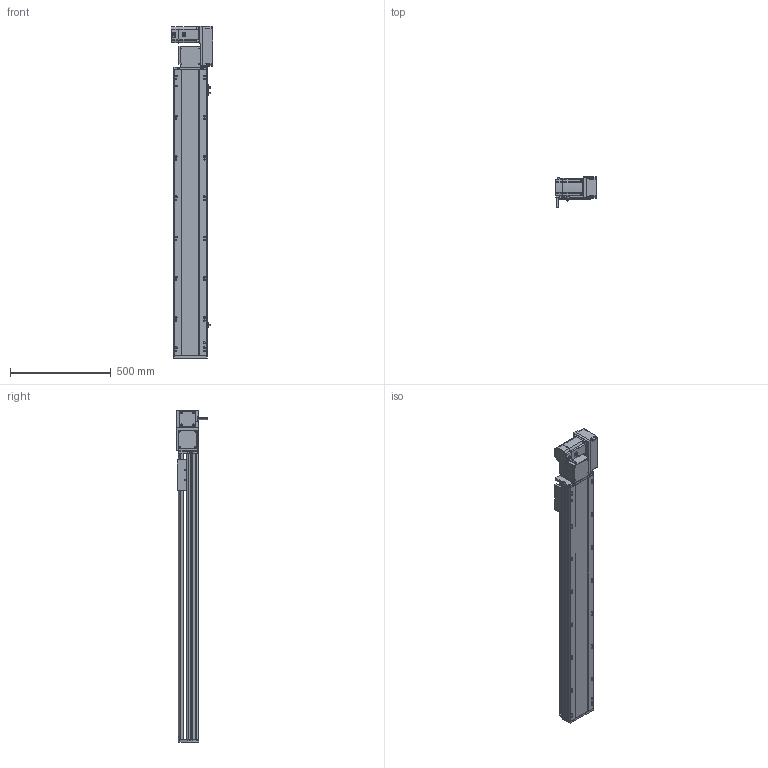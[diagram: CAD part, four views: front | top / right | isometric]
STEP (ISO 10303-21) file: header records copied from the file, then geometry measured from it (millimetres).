
FILE_DESCRIPTION (( 'STEP AP214' ), '1' );
FILE_NAME ('RTB17S-XX-1150-R-M75-C4.STEP', '2025-12-12T01:36:31', ( '' ), ( '' ), 'SwSTEP 2.0', 'SolidWorks 2018', '' );
FILE_SCHEMA (( 'AUTOMOTIVE_DESIGN' ));
Length unit declared in the file: millimetre
Products named in the file (15): RTB22S-GY-008-M75--萇儂啣^RTB17S-R-々湍釱蚾饜-750W_RTB17S-XX-XX-R-M75-C4; RTB22S-GY-017P^RTB17S-R-々湍釱蚾饜-750W_RTB17S-XX-XX-R-M75-C4; EE672^RTB17S-XX-XX-R-M75-C4; RTB17S-L-007奻裔^RTB17S-XX-XX-R-M75-C4; 750W萇儂^RTB17S-XX-XX-R-M75-C4; RTB17S-XX-1150-R-M75-C4; RTB17S-賑釱^RTB17S-XX-XX-R-M75-C4; RTB17S-L-014-T20-P75--々湍釱^RTB17S-R-々湍釱蚾饜-750W_RTB17S-XX-XX-R-M75-C4; RTB17S-R-々湍釱蚾饜-750W^RTB17S-XX-XX-R-M75-C4; RTB17S-L-001-耜醱啣^RTB17S-XX-XX-R-M75-C4; RTB17-R-011菁釱^RTB17S-XX-XX-R-M75-C4; RTH13-BL-012覜茼え俋离^RTB17S-賑釱_RTB17S-XX-XX-R-M75-C4; RTB17S-L-004-賑釱^RTB17S-賑釱_RTB17S-XX-XX-R-M75-C4; RTB22S-GY-005P^RTB17S-R-々湍釱蚾饜-750W_RTB17S-XX-XX-R-M75-C4; RTB22S-GY-018P^RTB17S-R-々湍釱蚾饜-750W_RTB17S-XX-XX-R-M75-C4
Assembly tree (17 placements, depth 3):
  RTB17S-XX-1150-R-M75-C4
    RTB17-R-011菁釱^RTB17S-XX-XX-R-M75-C4
    EE672^RTB17S-XX-XX-R-M75-C4  x3
    RTB17S-L-001-耜醱啣^RTB17S-XX-XX-R-M75-C4
    RTB17S-賑釱^RTB17S-XX-XX-R-M75-C4
      RTB17S-L-004-賑釱^RTB17S-賑釱_RTB17S-XX-XX-R-M75-C4
      RTH13-BL-012覜茼え俋离^RTB17S-賑釱_RTB17S-XX-XX-R-M75-C4
    RTB17S-L-007奻裔^RTB17S-XX-XX-R-M75-C4
    750W萇儂^RTB17S-XX-XX-R-M75-C4
    RTB17S-R-々湍釱蚾饜-750W^RTB17S-XX-XX-R-M75-C4
      RTB17S-L-014-T20-P75--々湍釱^RTB17S-R-々湍釱蚾饜-750W_RTB17S-XX-XX-R-M75-C4
      RTB22S-GY-005P^RTB17S-R-々湍釱蚾饜-750W_RTB17S-XX-XX-R-M75-C4
      RTB22S-GY-017P^RTB17S-R-々湍釱蚾饜-750W_RTB17S-XX-XX-R-M75-C4  x2
      RTB22S-GY-008-M75--萇儂啣^RTB17S-R-々湍釱蚾饜-750W_RTB17S-XX-XX-R-M75-C4
      RTB22S-GY-018P^RTB17S-R-々湍釱蚾饜-750W_RTB17S-XX-XX-R-M75-C4
Bounding box: 207.4 x 152.7 x 1649 mm (x, y, z)
Volume: 13138812.9 mm3; surface area: 2255168.4 mm2
Topology: 17 solids, 17 shells, 2105 faces, 5836 edges, 3770 vertices
Faces by surface type: plane 972, cylinder 717, bspline 294, cone 110, sphere 8, torus 4
Entity records: 58870 total; most frequent: CARTESIAN_POINT 17300, ORIENTED_EDGE 8516, DIRECTION 7952, EDGE_CURVE 4258, AXIS2_PLACEMENT_3D 2790, VERTEX_POINT 2774, LINE 2372, VECTOR 2372
